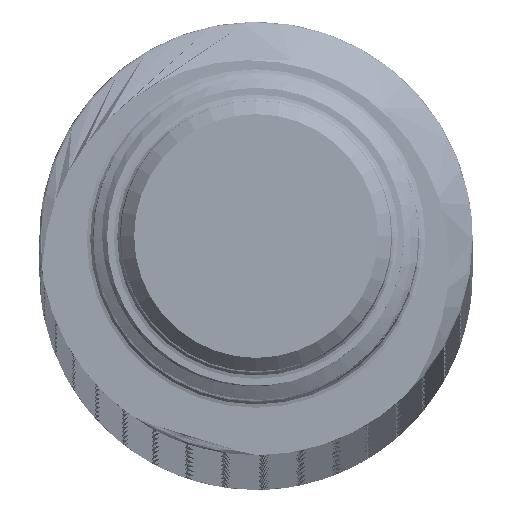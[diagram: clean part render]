
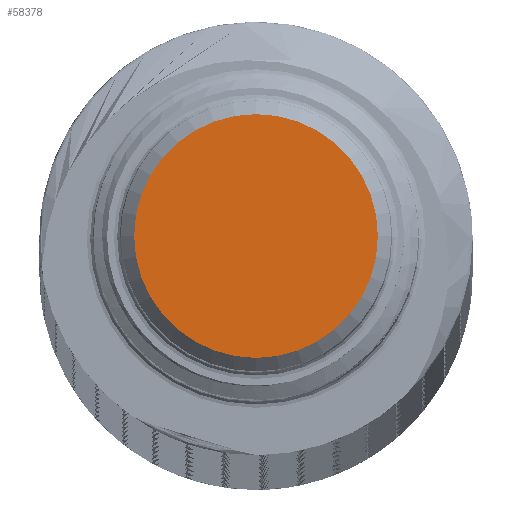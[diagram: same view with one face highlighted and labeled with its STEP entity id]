
A CAD part, top view. The second image highlights one B-rep face of the part: STEP entity #58378.
In plain terms, the highlighted planar face has unit normal (0, 0, 1).
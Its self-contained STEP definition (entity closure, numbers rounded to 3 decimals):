
#6124 = CARTESIAN_POINT ( 'NONE',  ( 4.5, 0., 0. ) ) ;
#8369 = AXIS2_PLACEMENT_3D ( 'NONE', #16161, #67991, #23605 ) ;
#11379 = FACE_OUTER_BOUND ( 'NONE', #17793, .T. ) ;
#16161 = CARTESIAN_POINT ( 'NONE',  ( 0., 0., 0. ) ) ;
#16902 = AXIS2_PLACEMENT_3D ( 'NONE', #67366, #22991, #74836 ) ;
#17793 = EDGE_LOOP ( 'NONE', ( #42121, #61429 ) ) ;
#22991 = DIRECTION ( 'NONE',  ( 0., 0., 1. ) ) ;
#23605 = DIRECTION ( 'NONE',  ( 1., 0., 0. ) ) ;
#33678 = EDGE_CURVE ( 'NONE', #73627, #54497, #65363, .T. ) ;
#40171 = AXIS2_PLACEMENT_3D ( 'NONE', #95128, #95455, #51093 ) ;
#42121 = ORIENTED_EDGE ( 'NONE', *, *, #93823, .T. ) ;
#43639 = PLANE ( 'NONE',  #40171 ) ;
#51093 = DIRECTION ( 'NONE',  ( 1., 0., 0. ) ) ;
#54497 = VERTEX_POINT ( 'NONE', #79556 ) ;
#58378 = ADVANCED_FACE ( 'NONE', ( #11379 ), #43639, .T. ) ;
#61429 = ORIENTED_EDGE ( 'NONE', *, *, #33678, .T. ) ;
#65363 = CIRCLE ( 'NONE', #8369, 4.5 ) ;
#67366 = CARTESIAN_POINT ( 'NONE',  ( 0., 0., 0. ) ) ;
#67991 = DIRECTION ( 'NONE',  ( 0., 0., 1. ) ) ;
#73627 = VERTEX_POINT ( 'NONE', #6124 ) ;
#74836 = DIRECTION ( 'NONE',  ( 1., 0., 0. ) ) ;
#79556 = CARTESIAN_POINT ( 'NONE',  ( -4.5, 0., 0. ) ) ;
#92984 = CIRCLE ( 'NONE', #16902, 4.5 ) ;
#93823 = EDGE_CURVE ( 'NONE', #54497, #73627, #92984, .T. ) ;
#95128 = CARTESIAN_POINT ( 'NONE',  ( 0., 0., 0. ) ) ;
#95455 = DIRECTION ( 'NONE',  ( 0., 0., 1. ) ) ;
